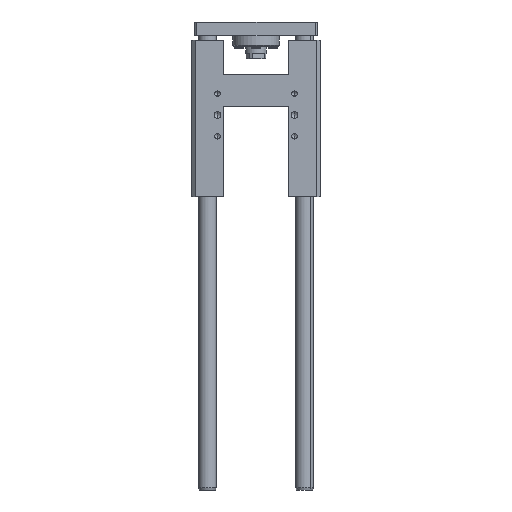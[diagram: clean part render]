
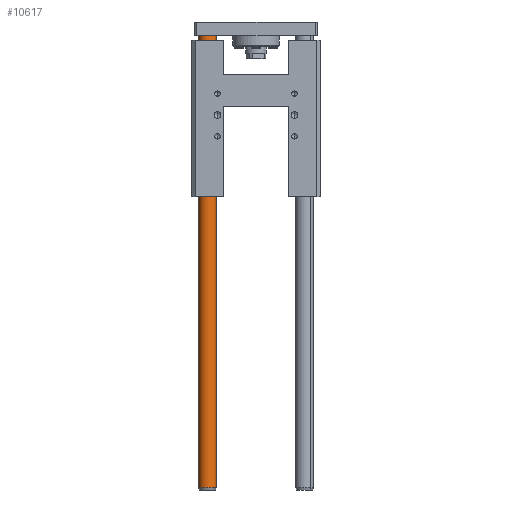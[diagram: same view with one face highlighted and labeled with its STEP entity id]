
A CAD part, front view. The second image highlights one B-rep face of the part: STEP entity #10617.
In plain terms, the highlighted cylindrical face has radius 8 mm (diameter 16 mm), a partial arc.
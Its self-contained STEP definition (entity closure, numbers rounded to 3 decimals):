
#3013 = CARTESIAN_POINT ( 'NONE',  ( -43.5, 0., -262.725 ) ) ;
#3298 = DIRECTION ( 'NONE',  ( 0., 0., 1. ) ) ;
#3881 = FACE_OUTER_BOUND ( 'NONE', #9764, .T. ) ;
#4361 = VERTEX_POINT ( 'NONE', #15089 ) ;
#4507 = VERTEX_POINT ( 'NONE', #12307 ) ;
#5617 = DIRECTION ( 'NONE',  ( 0., 0., 1. ) ) ;
#7489 = AXIS2_PLACEMENT_3D ( 'NONE', #14243, #16330, #9868 ) ;
#7939 = VECTOR ( 'NONE', #5617, 1000. ) ;
#9553 = DIRECTION ( 'NONE',  ( -0.957, 0.291, 0. ) ) ;
#9764 = EDGE_LOOP ( 'NONE', ( #10012, #22550, #17883, #15370 ) ) ;
#9868 = DIRECTION ( 'NONE',  ( -0.957, 0.291, 0. ) ) ;
#10012 = ORIENTED_EDGE ( 'NONE', *, *, #17733, .T. ) ;
#10617 = ADVANCED_FACE ( 'NONE', ( #3881 ), #15153, .T. ) ;
#11674 = CARTESIAN_POINT ( 'NONE',  ( -35.847, -2.33, -262.725 ) ) ;
#12307 = CARTESIAN_POINT ( 'NONE',  ( -51.153, 2.33, -260.725 ) ) ;
#12616 = EDGE_CURVE ( 'NONE', #20075, #4361, #25326, .T. ) ;
#12690 = AXIS2_PLACEMENT_3D ( 'NONE', #3013, #3298, #9553 ) ;
#12773 = EDGE_CURVE ( 'NONE', #4507, #25162, #15287, .T. ) ;
#13423 = CARTESIAN_POINT ( 'NONE',  ( -51.153, 2.33, 144.275 ) ) ;
#13637 = CARTESIAN_POINT ( 'NONE',  ( -35.847, -2.33, -260.725 ) ) ;
#14243 = CARTESIAN_POINT ( 'NONE',  ( -43.5, 0., -260.725 ) ) ;
#14535 = AXIS2_PLACEMENT_3D ( 'NONE', #15838, #24269, #19814 ) ;
#15089 = CARTESIAN_POINT ( 'NONE',  ( -35.847, -2.33, 144.275 ) ) ;
#15153 = CYLINDRICAL_SURFACE ( 'NONE', #12690, 8. ) ;
#15287 = LINE ( 'NONE', #17872, #19486 ) ;
#15370 = ORIENTED_EDGE ( 'NONE', *, *, #12773, .F. ) ;
#15838 = CARTESIAN_POINT ( 'NONE',  ( -43.5, 0., 144.275 ) ) ;
#16330 = DIRECTION ( 'NONE',  ( 0., 0., 1. ) ) ;
#17733 = EDGE_CURVE ( 'NONE', #4507, #20075, #22199, .T. ) ;
#17872 = CARTESIAN_POINT ( 'NONE',  ( -51.153, 2.33, -262.725 ) ) ;
#17883 = ORIENTED_EDGE ( 'NONE', *, *, #18057, .F. ) ;
#18057 = EDGE_CURVE ( 'NONE', #25162, #4361, #23845, .T. ) ;
#19486 = VECTOR ( 'NONE', #25896, 1000. ) ;
#19814 = DIRECTION ( 'NONE',  ( -0.957, 0.291, 0. ) ) ;
#20075 = VERTEX_POINT ( 'NONE', #13637 ) ;
#22199 = CIRCLE ( 'NONE', #7489, 8. ) ;
#22550 = ORIENTED_EDGE ( 'NONE', *, *, #12616, .T. ) ;
#23845 = CIRCLE ( 'NONE', #14535, 8. ) ;
#24269 = DIRECTION ( 'NONE',  ( 0., 0., 1. ) ) ;
#25162 = VERTEX_POINT ( 'NONE', #13423 ) ;
#25326 = LINE ( 'NONE', #11674, #7939 ) ;
#25896 = DIRECTION ( 'NONE',  ( 0., 0., 1. ) ) ;
